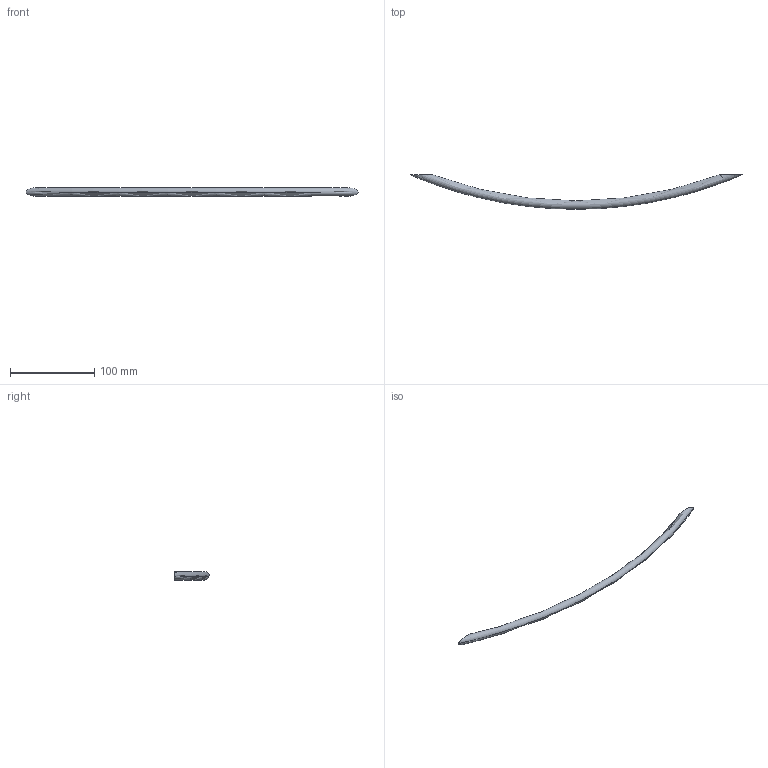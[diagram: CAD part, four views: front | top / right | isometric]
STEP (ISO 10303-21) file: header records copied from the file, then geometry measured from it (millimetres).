
FILE_DESCRIPTION( ( '' ), '1' );
FILE_NAME( 'D:/1.AUTOCAD EXPORT/Group 10/sheet_10_1/ 9070494.stp', '2013-10-21T12:41:02', ( '' ), ( '' ), ' ', ' ', ' ' );
FILE_SCHEMA( ( 'automotive_design' ) );
Length unit declared in the file: millimetre
Products named in the file (1): 1
Bounding box: 394 x 40.94 x 9.99 mm (x, y, z)
Volume: 29483.3 mm3; surface area: 12416.9 mm2
Topology: 1 solids, 1 shells, 10 faces, 18 edges, 12 vertices
Faces by surface type: cylinder 4, plane 4, torus 2
Entity records: 662 total; most frequent: CARTESIAN_POINT 205, DIRECTION 46, STYLED_ITEM 41, PRESENTATION_STYLE_ASSIGNMENT 41, COLOUR_RGB 41, ORIENTED_EDGE 36, AXIS2_PLACEMENT_3D 21, EDGE_CURVE 18
